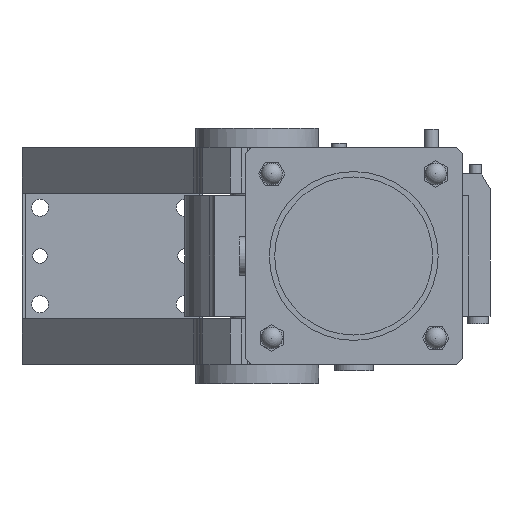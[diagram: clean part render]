
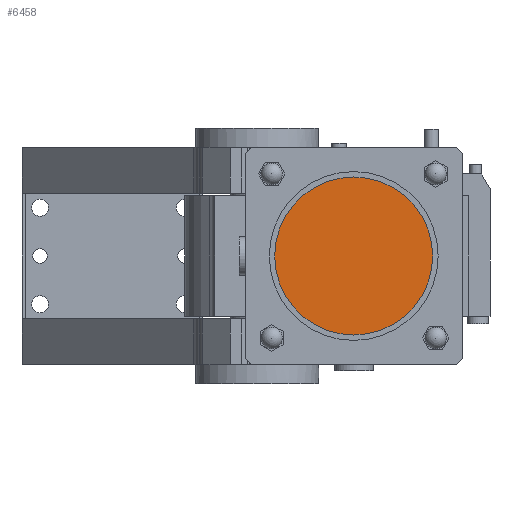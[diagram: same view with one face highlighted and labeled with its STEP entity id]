
A CAD part, front view. The second image highlights one B-rep face of the part: STEP entity #6458.
In plain terms, the highlighted planar face has unit normal (0, -1, 0).
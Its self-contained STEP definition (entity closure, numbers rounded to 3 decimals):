
#1504=PLANE('',#7145);
#2014=FACE_OUTER_BOUND('',#2506,.T.);
#2506=EDGE_LOOP('',(#5220));
#2837=CIRCLE('',#7056,65.5);
#3161=VERTEX_POINT('',#9941);
#3833=EDGE_CURVE('',#3161,#3161,#2837,.T.);
#5220=ORIENTED_EDGE('',*,*,#3833,.T.);
#6458=ADVANCED_FACE('',(#2014),#1504,.T.);
#7056=AXIS2_PLACEMENT_3D('',#9942,#8058,#8059);
#7145=AXIS2_PLACEMENT_3D('',#10254,#8356,#8357);
#8058=DIRECTION('center_axis',(0.,-1.,0.));
#8059=DIRECTION('ref_axis',(0.,0.,-1.));
#8356=DIRECTION('center_axis',(0.,-1.,0.));
#8357=DIRECTION('ref_axis',(0.,0.,-1.));
#9941=CARTESIAN_POINT('',(80.,-622.,65.5));
#9942=CARTESIAN_POINT('Origin',(80.,-622.,0.));
#10254=CARTESIAN_POINT('Origin',(80.,-622.,0.));
